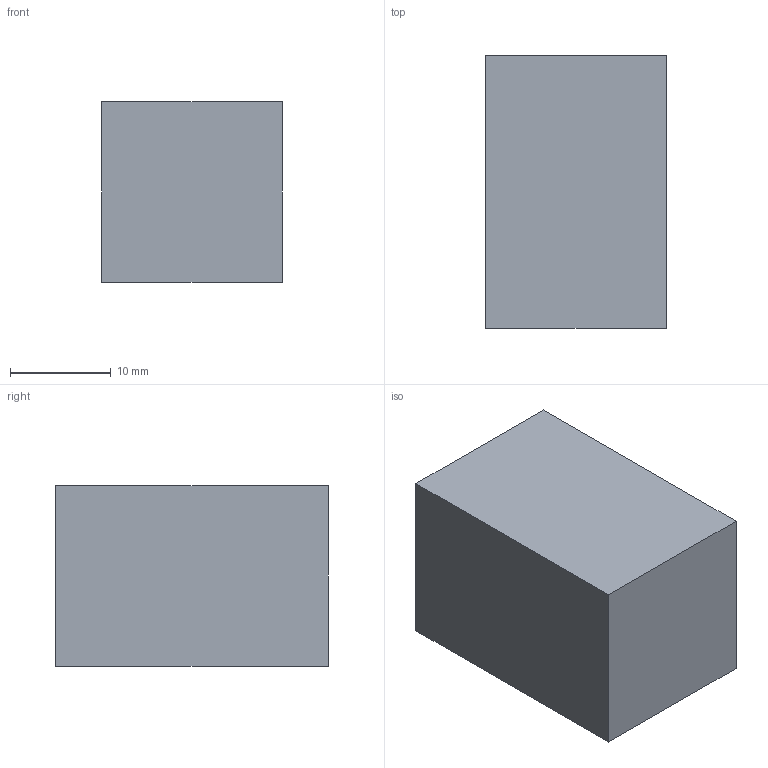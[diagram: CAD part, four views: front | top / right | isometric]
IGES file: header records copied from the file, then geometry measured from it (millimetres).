
Start section: Data from Parasolid IGES Translator 20.0.26, Copyright(c) 2006 Siemens P LM Software. All Rights Reserved.
Global section: file name: 9303938.igs; native system: By Siemens PLM Incorporated; preprocessor: XPlus GENERIC/IGES 20.0.26; author: Noname; organization: Noname; date: 20210922.163528; units: millimetre
Bounding box: 17.86 x 27 x 17.86 mm (x, y, z)
Surface area: 2701.6 mm2 (no closed solid volume)
Topology: 0 solids, 0 shells, 8 faces, 30 edges, 30 vertices
Faces by surface type: extrusion 7, revolution 1
